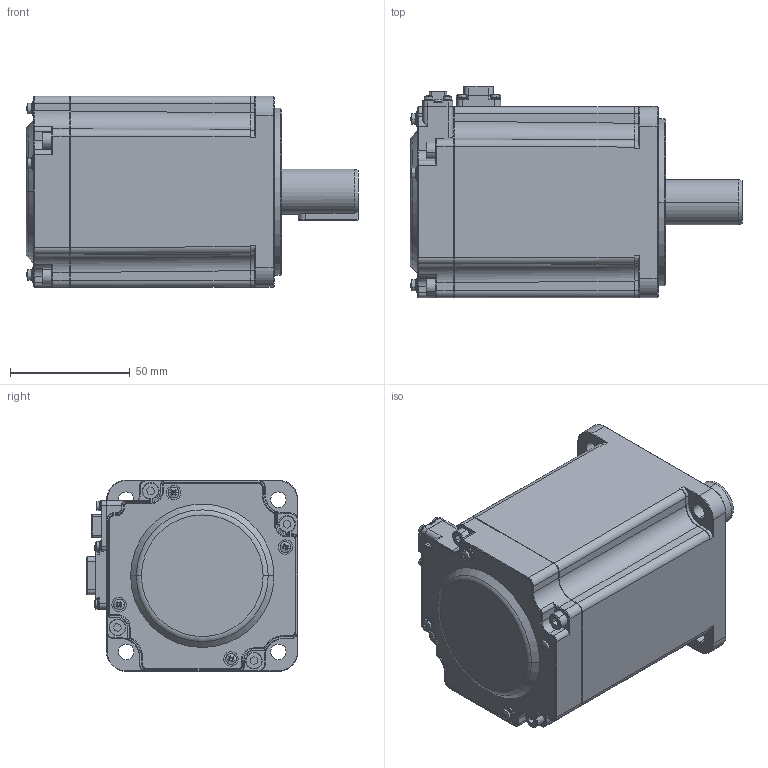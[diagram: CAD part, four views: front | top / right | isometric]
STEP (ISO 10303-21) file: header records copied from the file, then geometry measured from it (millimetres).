
FILE_DESCRIPTION (( 'STEP AP214' ), '1' );
FILE_NAME ('80梓袧軞蚾眻脣.STEP', '2022-07-21T01:53:03', ( '' ), ( '' ), 'SwSTEP 2.0', 'SolidWorks 2021', '' );
FILE_SCHEMA (( 'AUTOMOTIVE_DESIGN' ));
Length unit declared in the file: millimetre
Products named in the file (1): 80梓袧軞蚾眻脣
Bounding box: 138.9 x 88.6 x 80.2 mm (x, y, z)
Volume: 263017.9 mm3; surface area: 139156.4 mm2
Topology: 72 solids, 72 shells, 4285 faces, 10611 edges, 6537 vertices
Faces by surface type: plane 2045, cylinder 1202, cone 408, bspline 305, torus 269, sphere 56
Entity records: 193614 total; most frequent: CARTESIAN_POINT 45605, ORIENTED_EDGE 20938, DIRECTION 20621, EDGE_CURVE 10469, AXIS2_PLACEMENT_3D 7429, VERTEX_POINT 6505, LINE 5763, VECTOR 5763
